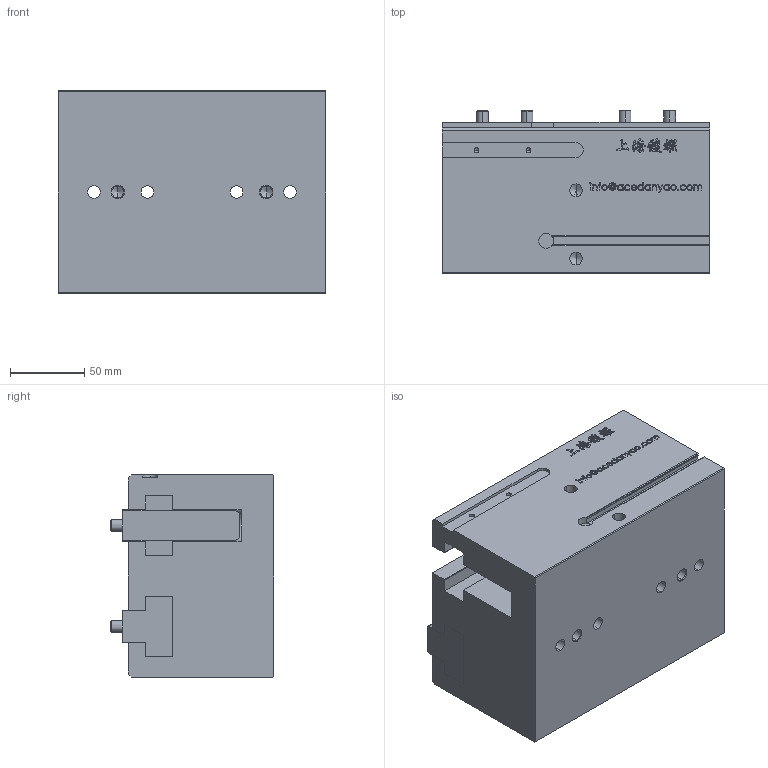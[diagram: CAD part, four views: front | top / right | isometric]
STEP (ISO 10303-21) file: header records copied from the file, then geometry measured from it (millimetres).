
FILE_DESCRIPTION (( 'STEP AP203' ), '1' );
FILE_NAME ('GPL60-60-原始檔-組合-W106.04.18.STEP', '2017-04-18T01:19:33', ( 'DanyaoCAD' ), ( '' ), 'SwSTEP 2.0', 'SolidWorks 2016', '' );
FILE_SCHEMA (( 'CONFIG_CONTROL_DESIGN' ));
Length unit declared in the file: millimetre
Products named in the file (3): GPL60-60-原始檔-組合-W106.04.18; Griffa; Corpo
Assembly tree (3 placements, depth 2):
  GPL60-60-原始檔-組合-W106.04.18
    Griffa  x2
    Corpo
Bounding box: 180 x 110 x 136 mm (x, y, z)
Volume: 2118085.8 mm3; surface area: 217785.2 mm2
Topology: 3 solids, 3 shells, 995 faces, 2771 edges, 1826 vertices
Faces by surface type: bspline 640, plane 263, cylinder 56, cone 36
Entity records: 46686 total; most frequent: CARTESIAN_POINT 26458, ORIENTED_EDGE 5254, EDGE_CURVE 2627, DIRECTION 2073, VERTEX_POINT 1747, B_SPLINE_CURVE_WITH_KNOTS 1280, LINE 1237, VECTOR 1237
